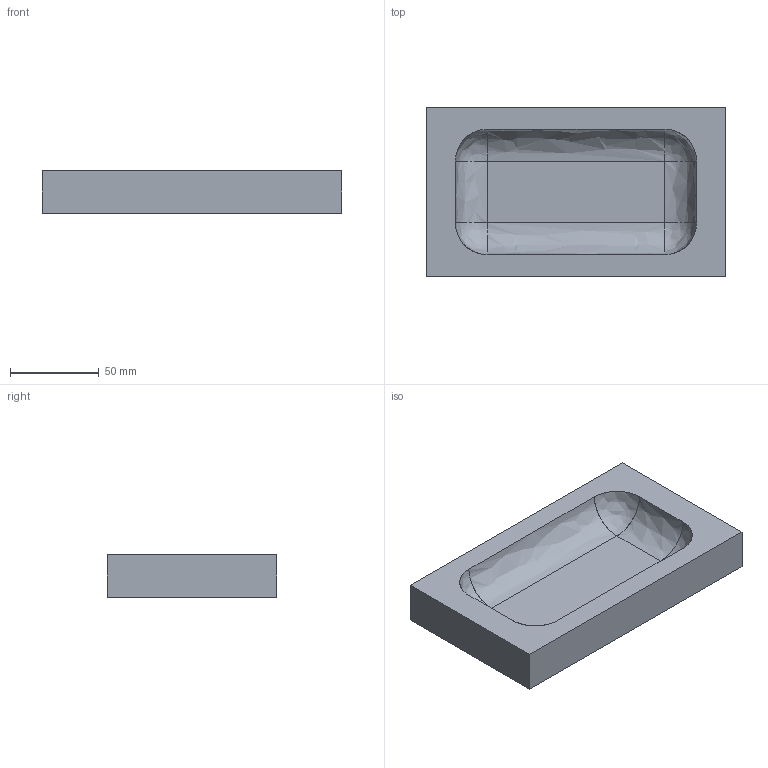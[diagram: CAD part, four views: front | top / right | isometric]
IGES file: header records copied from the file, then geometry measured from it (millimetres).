
Global section: file name: C:\Users\ronysch.boss\Documents\fabacademy_2017\week_14\rony_17.igs; native system: Rhinoceros ( Jun  9 2014 ); preprocessor: Trout Lake IGES 012 Jun  9 2014; date: 170505.075331; units: millimetre
Bounding box: 169.22 x 95.69 x 24 mm (x, y, z)
Surface area: 48893.1 mm2 (no closed solid volume)
Topology: 0 solids, 0 shells, 15 faces, 98 edges, 94 vertices
Faces by surface type: bspline 15
